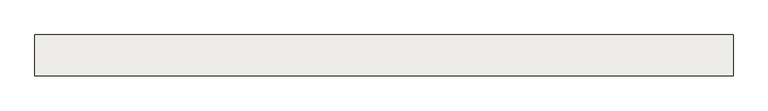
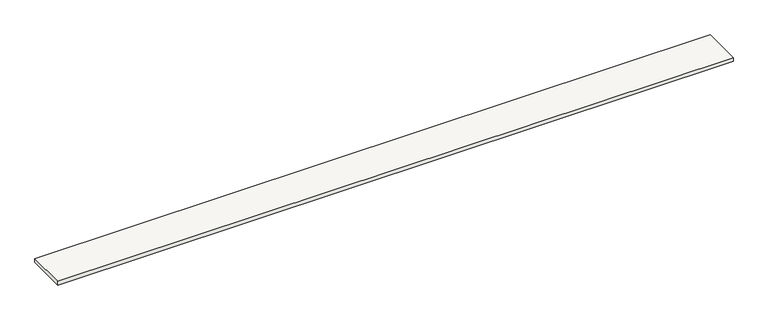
"""IFC4 building model written with IfcOpenShell, lengths in millimetres: slab geometry, Sol-02 - Tablette bois 2cm."""

from ifc_helpers import new_model, si_unit, origin, origin_with_axes, place, context, project, spatial, polyline, outline, extrude, source, transform, mapped, element, save


def slab_95ab0313(model_context):
    return source(origin(), model_context, "Body", "SweptSolid", [
        extrude(outline(polyline([(36897.0000007, 11300.0), (36897.0000007, 11100.0), (33497.0000007, 11100.0), (33497.0000007, 11300.0), (36897.0000007, 11300.0)])), origin_with_axes(), (0.0, 0.0, 1.0), 20.0),
    ])


if __name__ == "__main__":
    model = new_model("IFC4")
    model_context = context("Model", 3, world=origin())
    ifc_project = project(units=[si_unit("LENGTHUNIT", "METRE", prefix="MILLI")], contexts=[model_context])
    site = spatial("IfcSite", under=ifc_project)
    building = spatial("IfcBuilding", under=site)
    placement = place(None, origin())
    slab_shape = slab_95ab0313(model_context)
    element("IfcSlab", 1, ObjectType="Sol-02 - Tablette bois 2cm", at=placement, inside=building, context=model_context, shape_type="MappedRepresentation", body=[
        mapped(slab_shape, transform((0.0, 0.0, 0.0), x_axis=(1.0, 0.0, 0.0), y_axis=(0.0, 1.0, 0.0), z_axis=(0.0, 0.0, 1.0))),
    ])
    save(model, "model.ifc")
